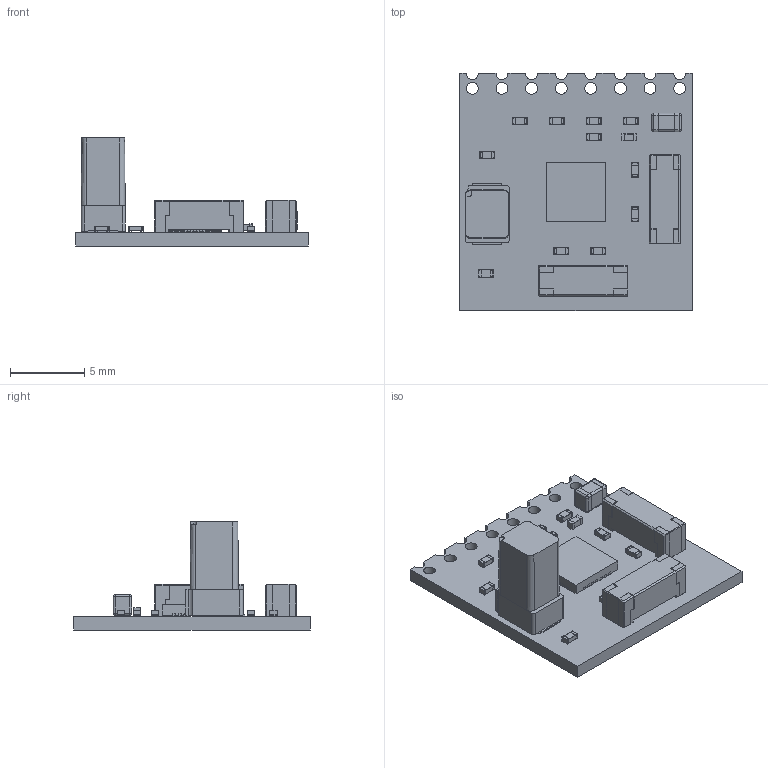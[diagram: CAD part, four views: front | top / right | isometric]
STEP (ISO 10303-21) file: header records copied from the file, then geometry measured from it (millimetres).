
FILE_DESCRIPTION(('KiCad electronic assembly'),'2;1');
FILE_NAME('rm3100_no_pinheader_preview.step','2026-06-19T17:35:51',( 'Pcbnew'),('Kicad'),'Open CASCADE STEP processor 7.9', 'KiCad to STEP converter','Unknown');
FILE_SCHEMA(('AUTOMOTIVE_DESIGN { 1 0 10303 214 1 1 1 1 }'));
Length unit declared in the file: millimetre
Products named in the file (22): rm3100_no_pinheader_preview 1; C_0402_1005Metric; ERJ-2RKF1210X; solidBody; Terminal; solidTop; MagI2C; RM-3100 Sen-Z-f; RM-3100 Sen-XY-f; ERJ-2RKF1002X; GCD21BR71H104KA01L; Fillet1; Fillet2; body2; ERJ-2RKF3302X; rm3100_no_pinheader_preview_PCB
Assembly tree (30 placements, depth 3):
  rm3100_no_pinheader_preview 1
    C_0402_1005Metric
    ERJ-2RKF1210X  x9
      solidBody
      Terminal
      solidTop
    MagI2C
    RM-3100 Sen-Z-f
    RM-3100 Sen-XY-f  x2
    ERJ-2RKF1002X
      solidBody
      Terminal
      solidTop
    GCD21BR71H104KA01L
      Fillet1
      Fillet2
      body2
    ERJ-2RKF3302X
      solidBody
      Terminal
      solidTop
    rm3100_no_pinheader_preview_PCB
Bounding box: 15.7 x 16 x 7.29 mm (x, y, z)
Volume: 346.3 mm3; surface area: 1067.3 mm2
Topology: 94 solids, 94 shells, 1434 faces, 3721 edges, 2458 vertices
Faces by surface type: plane 1045, cylinder 363, cone 12, sphere 8, bspline 6
Full cylindrical faces by diameter (mm): 0.8 x8
Entity records: 48013 total; most frequent: CARTESIAN_POINT 18973, ORIENTED_EDGE 4900, DIRECTION 4581, EDGE_CURVE 2450, LINE 1891, VECTOR 1891, VERTEX_POINT 1620, AXIS2_PLACEMENT_3D 1345
